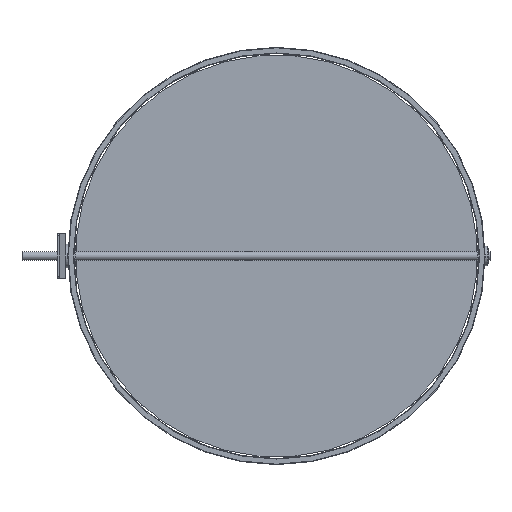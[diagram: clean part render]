
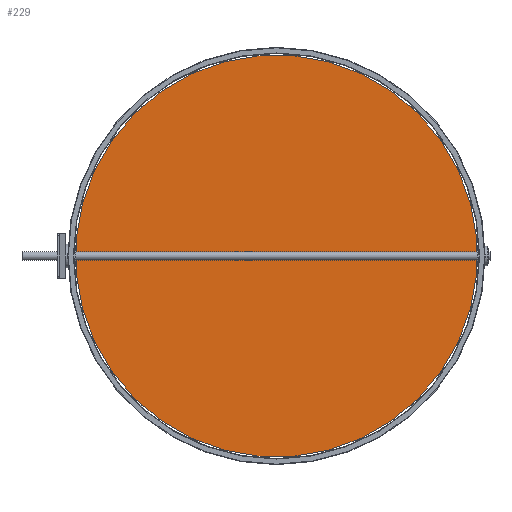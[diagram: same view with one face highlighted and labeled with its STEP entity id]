
A CAD part, left-side view. The second image highlights one B-rep face of the part: STEP entity #229.
In plain terms, the highlighted planar face has unit normal (-1, 0, 0).
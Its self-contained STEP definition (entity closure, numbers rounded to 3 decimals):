
#229=ADVANCED_FACE('',(#421,#422,#423,#424,#425,#426,#427,#428),#289,.T.);
#289=PLANE('',#1277);
#345=LINE('',#1833,#393);
#350=LINE('',#1847,#398);
#393=VECTOR('',#1493,1.);
#398=VECTOR('',#1506,1.);
#421=FACE_BOUND('',#565,.T.);
#422=FACE_BOUND('',#566,.T.);
#423=FACE_BOUND('',#567,.T.);
#424=FACE_BOUND('',#568,.T.);
#425=FACE_BOUND('',#569,.T.);
#426=FACE_BOUND('',#570,.T.);
#427=FACE_BOUND('',#571,.T.);
#428=FACE_BOUND('',#572,.T.);
#565=EDGE_LOOP('',(#807,#808,#809,#810));
#566=EDGE_LOOP('',(#811));
#567=EDGE_LOOP('',(#812));
#568=EDGE_LOOP('',(#813));
#569=EDGE_LOOP('',(#814));
#570=EDGE_LOOP('',(#815));
#571=EDGE_LOOP('',(#816));
#572=EDGE_LOOP('',(#817));
#807=ORIENTED_EDGE('',*,*,#1084,.T.);
#808=ORIENTED_EDGE('',*,*,#1063,.T.);
#809=ORIENTED_EDGE('',*,*,#1067,.T.);
#810=ORIENTED_EDGE('',*,*,#1070,.T.);
#811=ORIENTED_EDGE('',*,*,#1081,.T.);
#812=ORIENTED_EDGE('',*,*,#1079,.F.);
#813=ORIENTED_EDGE('',*,*,#1077,.F.);
#814=ORIENTED_EDGE('',*,*,#1075,.F.);
#815=ORIENTED_EDGE('',*,*,#1073,.F.);
#816=ORIENTED_EDGE('',*,*,#1071,.F.);
#817=ORIENTED_EDGE('',*,*,#1085,.F.);
#943=VERTEX_POINT('',#1832);
#944=VERTEX_POINT('',#1834);
#946=VERTEX_POINT('',#1840);
#948=VERTEX_POINT('',#1846);
#949=VERTEX_POINT('',#1850);
#951=VERTEX_POINT('',#1855);
#953=VERTEX_POINT('',#1860);
#955=VERTEX_POINT('',#1865);
#957=VERTEX_POINT('',#1870);
#959=VERTEX_POINT('',#1875);
#961=VERTEX_POINT('',#1883);
#1063=EDGE_CURVE('',#944,#943,#345,.T.);
#1067=EDGE_CURVE('',#943,#946,#1146,.T.);
#1070=EDGE_CURVE('',#946,#948,#350,.T.);
#1071=EDGE_CURVE('',#949,#949,#1147,.T.);
#1073=EDGE_CURVE('',#951,#951,#1149,.T.);
#1075=EDGE_CURVE('',#953,#953,#1151,.T.);
#1077=EDGE_CURVE('',#955,#955,#1153,.T.);
#1079=EDGE_CURVE('',#957,#957,#1155,.T.);
#1081=EDGE_CURVE('',#959,#959,#1157,.T.);
#1084=EDGE_CURVE('',#948,#944,#1160,.T.);
#1085=EDGE_CURVE('',#961,#961,#1161,.T.);
#1146=CIRCLE('',#1250,496.);
#1147=CIRCLE('',#1253,4.05);
#1149=CIRCLE('',#1256,4.05);
#1151=CIRCLE('',#1259,4.05);
#1153=CIRCLE('',#1262,4.05);
#1155=CIRCLE('',#1265,4.05);
#1157=CIRCLE('',#1268,4.05);
#1160=CIRCLE('',#1272,496.);
#1161=CIRCLE('',#1274,4.05);
#1250=AXIS2_PLACEMENT_3D('',#1841,#1500,#1501);
#1253=AXIS2_PLACEMENT_3D('',#1849,#1509,#1510);
#1256=AXIS2_PLACEMENT_3D('',#1854,#1515,#1516);
#1259=AXIS2_PLACEMENT_3D('',#1859,#1521,#1522);
#1262=AXIS2_PLACEMENT_3D('',#1864,#1527,#1528);
#1265=AXIS2_PLACEMENT_3D('',#1869,#1533,#1534);
#1268=AXIS2_PLACEMENT_3D('',#1874,#1539,#1540);
#1272=AXIS2_PLACEMENT_3D('',#1880,#1547,#1548);
#1274=AXIS2_PLACEMENT_3D('',#1882,#1551,#1552);
#1277=AXIS2_PLACEMENT_3D('',#1887,#1557,#1558);
#1493=DIRECTION('',(0.,0.,1.));
#1500=DIRECTION('',(-1.,0.,0.));
#1501=DIRECTION('',(0.,0.,1.));
#1506=DIRECTION('',(0.,0.,-1.));
#1509=DIRECTION('',(-1.,0.,0.));
#1510=DIRECTION('',(0.,0.,1.));
#1515=DIRECTION('',(-1.,0.,0.));
#1516=DIRECTION('',(0.,0.,1.));
#1521=DIRECTION('',(-1.,0.,0.));
#1522=DIRECTION('',(0.,0.,1.));
#1527=DIRECTION('',(-1.,0.,0.));
#1528=DIRECTION('',(0.,0.,1.));
#1533=DIRECTION('',(-1.,0.,0.));
#1534=DIRECTION('',(0.,0.,1.));
#1539=DIRECTION('',(1.,0.,0.));
#1540=DIRECTION('',(0.,0.,1.));
#1547=DIRECTION('',(-1.,0.,0.));
#1548=DIRECTION('',(0.,0.,1.));
#1551=DIRECTION('',(-1.,0.,0.));
#1552=DIRECTION('',(0.,0.,1.));
#1557=DIRECTION('',(-1.,0.,0.));
#1558=DIRECTION('',(0.,0.,1.));
#1832=CARTESIAN_POINT('',(-0.5,-603.,169.497));
#1833=CARTESIAN_POINT('',(-0.5,-603.,80.503));
#1834=CARTESIAN_POINT('',(-0.5,-603.,80.503));
#1840=CARTESIAN_POINT('',(-0.5,385.,169.497));
#1841=CARTESIAN_POINT('',(-0.5,-109.,125.));
#1846=CARTESIAN_POINT('',(-0.5,385.,80.503));
#1847=CARTESIAN_POINT('',(-0.5,385.,169.497));
#1849=CARTESIAN_POINT('',(-0.5,361.,125.));
#1850=CARTESIAN_POINT('',(-0.5,361.,129.05));
#1854=CARTESIAN_POINT('',(-0.5,-579.,125.));
#1855=CARTESIAN_POINT('',(-0.5,-579.,129.05));
#1859=CARTESIAN_POINT('',(-0.5,111.,125.));
#1860=CARTESIAN_POINT('',(-0.5,111.,129.05));
#1864=CARTESIAN_POINT('',(-0.5,-329.,125.));
#1865=CARTESIAN_POINT('',(-0.5,-329.,129.05));
#1869=CARTESIAN_POINT('',(-0.5,-109.,125.));
#1870=CARTESIAN_POINT('',(-0.5,-109.,129.05));
#1874=CARTESIAN_POINT('',(-0.5,-549.,125.));
#1875=CARTESIAN_POINT('',(-0.5,-549.,129.05));
#1880=CARTESIAN_POINT('',(-0.5,-109.,125.));
#1882=CARTESIAN_POINT('',(-0.5,331.,125.));
#1883=CARTESIAN_POINT('',(-0.5,331.,129.05));
#1887=CARTESIAN_POINT('',(-0.5,-109.,125.));
